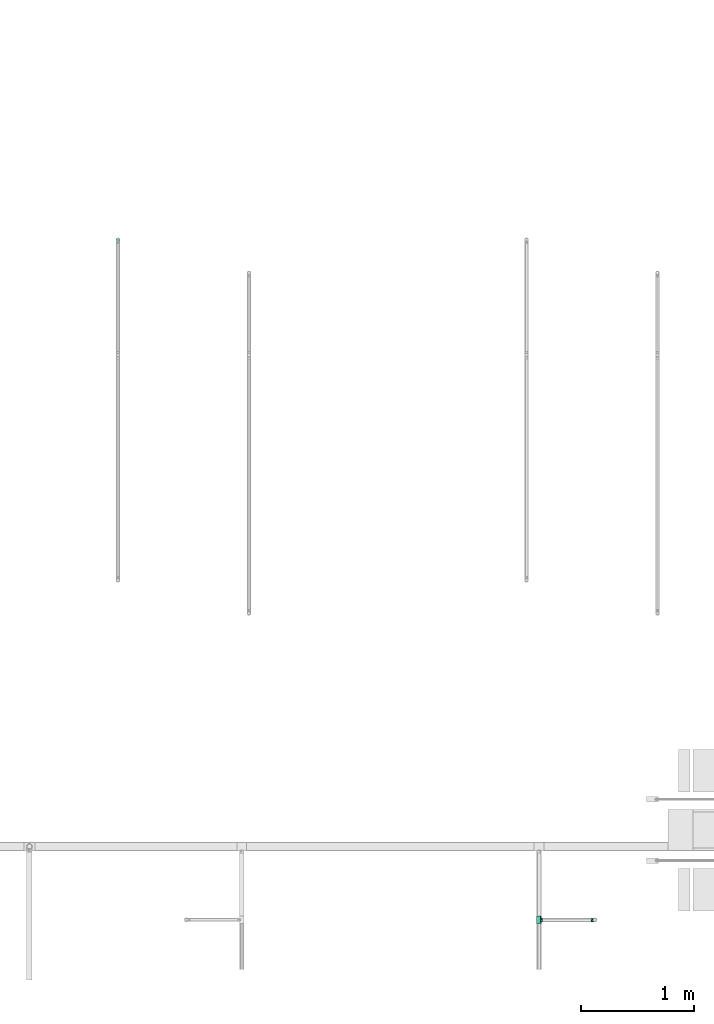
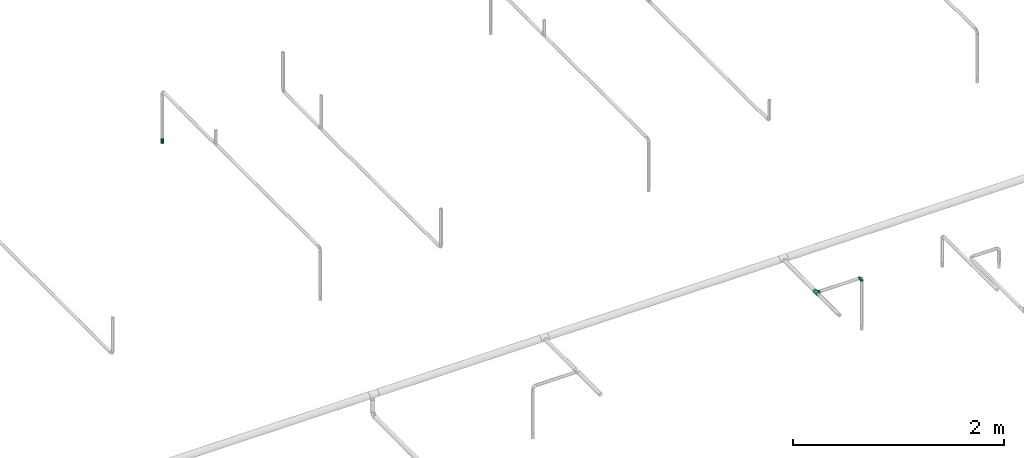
# One storey, part 45 of 95: 2 flow fittings, 1 flow terminal.
"""IFC2X3 building model written with IfcOpenShell, lengths in millimetres."""

from ifc_helpers import new_model, entity, si_unit, converted_unit, derived_unit, direction, frame, origin_with_axes, place, context, subcontext, project, spatial, open_shell, surface_model, source, transform, mapped, type_object, element, save


model = new_model("IFC2X3")

# Units and contexts
model_context = context("Model", 3, precision=0.01, world=frame((0.0, 4.29681676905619e-09, 0.0)), true_north=direction((4.01073788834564e-13, 1.0)))
plan_context = context("Plan", 3, precision=0.01, world=frame((0.0, 4.29681676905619e-09, 0.0)), true_north=direction((4.01073788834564e-13, 1.0)))
body_context = subcontext(model_context, "Body", "Model", "MODEL_VIEW")
ifc_project = project(units=[converted_unit("PLANEANGLEUNIT", "DEGREE", entity("IfcPositiveLengthMeasure", 0.0174532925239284), si_unit("PLANEANGLEUNIT", "RADIAN"), dimensions=[0, 0, 0, 0, 0, 0, 0]), si_unit("AREAUNIT", "SQUARE_METRE"), si_unit("LENGTHUNIT", "METRE", prefix="MILLI"), si_unit("MASSUNIT", "GRAM", prefix="KILO"), si_unit("POWERUNIT", "WATT"), si_unit("PRESSUREUNIT", "PASCAL"), si_unit("FORCEUNIT", "NEWTON", prefix="KILO"), si_unit("ELECTRICVOLTAGEUNIT", "VOLT"), si_unit("ELECTRICCURRENTUNIT", "AMPERE"), si_unit("THERMODYNAMICTEMPERATUREUNIT", "DEGREE_CELSIUS"), si_unit("TIMEUNIT", "SECOND"), si_unit("VOLUMEUNIT", "CUBIC_METRE"), derived_unit("LINEARVELOCITYUNIT", [(si_unit("LENGTHUNIT", "METRE"), 1), (si_unit("TIMEUNIT", "SECOND"), -1)]), derived_unit("VOLUMETRICFLOWRATEUNIT", [(si_unit("VOLUMEUNIT", "CUBIC_METRE"), 1), (si_unit("TIMEUNIT", "SECOND"), -1)]), derived_unit("THERMALTRANSMITTANCEUNIT", [(si_unit("POWERUNIT", "WATT"), 1), (si_unit("THERMODYNAMICTEMPERATUREUNIT", "KELVIN"), -1), (si_unit("AREAUNIT", "SQUARE_METRE"), -1)]), derived_unit("SOUNDPRESSUREUNIT", [(si_unit("PRESSUREUNIT", "PASCAL"), 1)])], contexts=[model_context, plan_context])

# Site, building, storey
site_placement = place(None, frame((0.0, -4.29681676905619e-09, 0.0), z_axis=(0.0, 0.0, 1.0), x_axis=(1.0, 0.0, 0.0)))
site = spatial("IfcSite", under=ifc_project, at=site_placement, CompositionType="ELEMENT")
building_placement = place(site_placement, frame((0.0, 4.29681676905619e-09, 0.0), z_axis=(0.0, 0.0, 1.0), x_axis=(1.0, 0.0, 0.0)))
building = spatial("IfcBuilding", under=site, at=building_placement, Name="mc-building", CompositionType="ELEMENT")
storey_placement = place(building_placement, frame((0.0, 0.0, 210900.0), z_axis=(0.0, 0.0, 1.0), x_axis=(1.0, 0.0, 0.0)))
storey = spatial("IfcBuildingStorey", under=building, at=storey_placement, Name="Nivå F", CompositionType="ELEMENT", Elevation=210900.0)

# Flow fittings
pipe_fitting_type_1 = type_object("IfcPipeFittingType", Name="magi_pipe_fe_tee_centric_90_NOR", PredefinedType="JUNCTION")
shared_shape_1 = source(origin_with_axes(), body_context, "Body", "SurfaceModel", [
    surface_model("IfcShellBasedSurfaceModel", [(-33.8, 0.0, -21.2), (-33.8, -5.48696, -20.47763), (-33.8, 5.48696, -20.47763), (-33.8, 10.6, -18.35974), (-33.8, 14.99066, -14.99066), (-33.8, -20.47763, 5.48696), (-33.8, 18.35974, -10.6), (-33.8, 10.6, 18.35974), (-33.8, -14.99066, -14.99066), (-33.8, -18.35974, -10.6), (-33.8, -10.6, -18.35974), (-33.8, -20.47763, -5.48696), (-33.8, -21.2, 0.0), (-33.8, 18.35974, 10.6), (-33.8, 20.47763, -5.48696), (-33.8, 20.47763, 5.48696), (-33.8, 21.2, 0.0), (-33.8, 14.99066, 14.99066), (-33.8, 5.48696, 20.47763), (-33.8, 0.0, 21.2), (-33.8, -18.35974, 10.6), (-33.8, -14.99066, 14.99066), (-33.8, -10.6, 18.35974), (-33.8, -5.48696, 20.47763), (33.8, 5.48696, -20.47763), (33.8, -5.48696, -20.47763), (33.8, 0.0, -21.2), (33.8, 14.99066, -14.99066), (33.8, 10.6, -18.35974), (33.8, 18.35974, -10.6), (33.8, 20.47763, -5.48696), (33.8, -21.2, 0.0), (33.8, -10.6, -18.35974), (33.8, -18.35974, -10.6), (33.8, -14.99066, -14.99066), (33.8, -20.47763, -5.48696), (33.8, -20.47763, 5.48696), (33.8, 21.2, 0.0), (33.8, 20.47763, 5.48696), (33.8, 18.35974, 10.6), (33.8, 10.6, 18.35974), (33.8, 14.99066, 14.99066), (33.8, 0.0, 21.2), (33.8, 5.48696, 20.47763), (33.8, -14.99066, 14.99066), (33.8, -18.35974, 10.6), (33.8, -10.6, 18.35974), (33.8, -5.48696, 20.47763), (16.9, -21.2, 0.0), (15.78624, -20.32327, 6.03364), (12.81343, -18.11115, 11.01935), (8.52479, -15.37862, 14.59239), (3.07939, -13.16482, 16.61708), (-16.9, -21.2, 0.0), (-15.78686, -20.32375, 6.032), (-8.52604, -15.37932, 14.59166), (-3.0848, -13.16609, 16.61608), (-12.81602, -18.11299, 11.01634), (3.07939, -13.16482, -16.61708), (12.81343, -18.11115, -11.01935), (8.52479, -15.37862, -14.59239), (15.78624, -20.32327, -6.03364), (-3.0848, -13.16609, -16.61608), (-8.52604, -15.37932, -14.59166), (-12.81602, -18.11299, -11.01634), (-15.78686, -20.32375, -6.032), (4.37404, -31.8, -16.32415), (-16.9, -31.8, 0.0), (0.0, -31.8, -16.9), (14.63583, -31.8, -8.45), (8.45, -31.8, -14.63583), (16.32415, -31.8, -4.37404), (11.9501, -31.8, -11.9501), (-11.9501, -31.8, -11.9501), (-8.45, -31.8, -14.63583), (-4.37404, -31.8, -16.32415), (-14.63583, -31.8, -8.45), (-16.32415, -31.8, -4.37404), (16.9, -31.8, 0.0), (8.45, -31.8, 14.63583), (16.32415, -31.8, 4.37404), (14.63583, -31.8, 8.45), (-8.45, -31.8, 14.63583), (11.9501, -31.8, 11.9501), (4.37404, -31.8, 16.32415), (-16.32415, -31.8, 4.37404), (-11.9501, -31.8, 11.9501), (-14.63583, -31.8, 8.45), (0.0, -31.8, 16.9), (-4.37404, -31.8, 16.32415), (-16.34343, -20.76188, 3.016), (16.34312, -20.76163, 3.01682), (-0.00271, -13.16546, 16.61658), (16.34312, -20.76163, -3.01682), (-0.00271, -13.16546, -16.61658), (-16.34343, -20.76188, -3.016)], [open_shell([[[0, 1, 2]], [[3, 2, 4]], [[5, 2, 1]], [[4, 2, 6]], [[6, 2, 7]], [[8, 9, 10]], [[1, 10, 9]], [[9, 11, 1]], [[12, 1, 11]], [[5, 1, 12]], [[13, 14, 6]], [[13, 15, 16]], [[6, 7, 13]], [[5, 7, 2]], [[17, 13, 7]], [[18, 7, 19]], [[20, 21, 5]], [[22, 5, 21]], [[23, 19, 22]], [[7, 5, 22]], [[22, 19, 7]], [[16, 14, 13]], [[24, 25, 26]], [[27, 24, 28]], [[29, 30, 24]], [[29, 24, 27]], [[31, 24, 30]], [[32, 33, 34]], [[33, 32, 25]], [[33, 31, 35]], [[31, 33, 25]], [[25, 24, 31]], [[30, 36, 31]], [[37, 38, 39]], [[37, 39, 40]], [[37, 40, 36]], [[40, 39, 41]], [[42, 40, 43]], [[36, 44, 45]], [[44, 36, 46]], [[46, 42, 47]], [[46, 36, 40]], [[40, 42, 46]], [[37, 36, 30]], [[31, 36, 48]], [[49, 48, 36]], [[36, 45, 49]], [[45, 44, 50]], [[51, 50, 44]], [[52, 51, 44]], [[44, 46, 52]], [[45, 50, 49]], [[53, 54, 5]], [[5, 12, 53]], [[54, 20, 5]], [[55, 56, 21]], [[20, 57, 21]], [[57, 20, 54]], [[21, 57, 55]], [[56, 22, 21]], [[52, 22, 56]], [[19, 47, 42]], [[23, 46, 47]], [[18, 42, 43]], [[39, 38, 15]], [[17, 40, 41]], [[13, 41, 39]], [[43, 40, 7]], [[16, 38, 37]], [[22, 46, 23]], [[23, 47, 19]], [[18, 19, 42]], [[43, 7, 18]], [[7, 40, 17]], [[13, 17, 41]], [[15, 13, 39]], [[38, 16, 15]], [[46, 22, 52]], [[6, 30, 29]], [[14, 37, 30]], [[4, 29, 27]], [[26, 25, 1]], [[2, 28, 24]], [[0, 24, 26]], [[27, 28, 3]], [[10, 25, 32]], [[16, 37, 14]], [[14, 30, 6]], [[4, 6, 29]], [[27, 3, 4]], [[3, 28, 2]], [[0, 2, 24]], [[1, 0, 26]], [[25, 10, 1]], [[32, 58, 10]], [[34, 59, 60]], [[59, 34, 33]], [[60, 58, 34]], [[34, 58, 32]], [[35, 31, 48]], [[35, 61, 33]], [[61, 35, 48]], [[33, 61, 59]], [[62, 63, 8]], [[8, 64, 9]], [[64, 8, 63]], [[62, 8, 10]], [[65, 53, 11]], [[65, 11, 9]], [[11, 53, 12]], [[65, 9, 64]], [[58, 62, 10]], [[66, 67, 68]], [[69, 66, 70]], [[69, 71, 66]], [[69, 70, 72]], [[67, 66, 71]], [[68, 73, 74]], [[74, 75, 68]], [[76, 67, 77]], [[73, 68, 76]], [[67, 76, 68]], [[71, 78, 67]], [[79, 78, 80]], [[79, 80, 81]], [[82, 67, 79]], [[79, 81, 83]], [[82, 79, 84]], [[85, 86, 87]], [[86, 85, 82]], [[82, 88, 89]], [[85, 67, 82]], [[84, 88, 82]], [[79, 67, 78]], [[85, 90, 67]], [[57, 87, 86]], [[85, 87, 54]], [[86, 82, 55]], [[85, 54, 90]], [[90, 53, 67]], [[54, 87, 57]], [[91, 49, 80]], [[55, 89, 56]], [[55, 57, 86]], [[88, 52, 92]], [[55, 82, 89]], [[52, 88, 84]], [[79, 51, 84]], [[50, 83, 81]], [[83, 51, 79]], [[81, 80, 49]], [[83, 50, 51]], [[51, 52, 84]], [[78, 91, 80]], [[49, 50, 81]], [[91, 78, 48]], [[88, 56, 89]], [[92, 56, 88]], [[71, 93, 78]], [[59, 69, 72]], [[71, 69, 61]], [[72, 70, 60]], [[93, 48, 78]], [[61, 69, 59]], [[60, 66, 58]], [[60, 59, 72]], [[68, 62, 94]], [[60, 70, 66]], [[95, 67, 53]], [[95, 65, 77]], [[71, 61, 93]], [[75, 62, 68]], [[65, 76, 77]], [[73, 76, 64]], [[68, 58, 66]], [[75, 63, 62]], [[63, 75, 74]], [[74, 73, 63]], [[63, 73, 64]], [[64, 76, 65]], [[67, 95, 77]], [[94, 58, 68]]])]),
])
flow_fitting_1_placement = place(storey_placement, frame((530010.01659, 441213.77142, 4310.0), z_axis=(0.0, 0.0, 1.0), x_axis=(0.0, 1.0, 0.0)))
element("IfcFlowFitting", 1, at=flow_fitting_1_placement, inside=storey, type_object=pipe_fitting_type_1, Name="magi_pipe_fe_tee_centric_90_NOR", context=body_context, shape_type="MappedRepresentation", body=[
    mapped(shared_shape_1, transform((0.0, 0.0, 0.0), scale=1.0)),
])
pipe_fitting_type_2 = type_object("IfcPipeFittingType", Name="magi_pipe_fe_elbow_short_001", PredefinedType="BEND")
shared_shape_2 = source(origin_with_axes(), body_context, "Body", "SurfaceModel", [
    surface_model("IfcShellBasedSurfaceModel", [(-33.8, 8.45, -14.63583), (-33.8, 4.37404, -16.32415), (-33.8, 11.9501, -11.9501), (-33.8, -11.9501, -11.9501), (-33.8, -14.63583, -8.45), (-33.8, -8.45, -14.63583), (-33.8, 0.0, -16.9), (-33.8, -4.37404, -16.32415), (-33.8, -4.37404, 16.32415), (-33.8, 0.0, 16.9), (-33.8, -8.45, 14.63583), (-33.8, 16.32415, -4.37404), (-33.8, 14.63583, -8.45), (-33.8, -16.32415, -4.37404), (-33.8, -16.9, 0.0), (-33.8, -16.32415, 4.37404), (-33.8, 11.9501, 11.9501), (-33.8, 14.63583, 8.45), (-33.8, 16.32415, 4.37404), (-33.8, 4.37404, 16.32415), (-33.8, 8.45, 14.63583), (-33.8, -14.63583, 8.45), (-33.8, -11.9501, 11.9501), (-33.8, 16.9, 0.0), (-11.9501, 33.8, -11.9501), (0.0, 33.8, -16.9), (-4.37404, 33.8, -16.32415), (-8.45, 33.8, -14.63583), (-14.63583, 33.8, -8.45), (-16.32415, 33.8, -4.37404), (14.63583, 33.8, -8.45), (8.45, 33.8, 14.63583), (16.32415, 33.8, -4.37404), (8.45, 33.8, -14.63583), (11.9501, 33.8, -11.9501), (4.37404, 33.8, -16.32415), (16.32415, 33.8, 4.37404), (16.9, 33.8, 0.0), (-11.9501, 33.8, 11.9501), (-16.32415, 33.8, 4.37404), (-14.63583, 33.8, 8.45), (-8.45, 33.8, 14.63583), (-4.37404, 33.8, 16.32415), (11.9501, 33.8, 11.9501), (14.63583, 33.8, 8.45), (0.0, 33.8, 16.9), (4.37404, 33.8, 16.32415), (-16.9, 33.8, 0.0), (-24.79389, -13.12945, 9.48721), (-22.19287, -9.75018, 12.59315), (-24.09897, -14.97035, 0.0), (-14.93934, -10.76256, 8.5297), (-22.46095, -14.75051, 5.27077), (14.75051, 22.46094, 5.27077), (11.9251, 13.23888, 4.33236), (13.04069, 14.39795, 0.0), (7.71387, 13.68847, 11.55891), (9.75018, 22.19287, 12.59315), (4.10169, 13.0571, 14.04018), (-24.84007, -6.39063, 15.2048), (-25.81779, -2.23879, 16.61097), (-23.66549, 2.59054, 16.87119), (-26.50418, 14.06512, 11.08152), (-24.21253, 17.66365, 7.72657), (-29.58514, 15.86957, 7.00283), (-6.17382, -7.5455, 0.0), (-13.23888, -11.9251, 4.33236), (-14.39795, -13.04069, 0.0), (-17.81434, 18.87373, 11.97104), (-6.30846, 29.15138, 15.82987), (-2.31622, 25.28002, 16.85849), (-29.23923, 10.23435, 13.77053), (-1.45439, -2.85688, 7.61475), (-0.28326, 0.34872, 10.09509), (-5.74484, -4.04709, 10.4122), (-4.41137, 11.31918, 16.59407), (-8.39727, 3.10034, 15.7812), (-1.72649, 9.1306, 15.53089), (-17.39909, 24.75344, 7.64977), (-26.19233, 20.0512, 0.0), (-28.14518, 17.29657, 4.25857), (-26.05147, 6.6281, 15.96447), (-5.87354, 16.61944, 16.86968), (-12.51807, 12.51807, 16.48937), (-10.06312, 7.38516, 16.81295), (-3.01882, 3.01882, 13.81718), (-13.0571, -4.10169, 14.04018), (-16.82553, -0.15166, 16.38038), (10.76256, 14.93934, 8.5297), (13.12945, 24.79389, 9.48721), (6.39063, 24.84007, 15.2048), (2.23879, 25.81779, 16.61097), (-13.68847, -7.71387, 11.55891), (14.97035, 24.09897, 0.0), (-7.30894, 22.89991, 16.09489), (-10.67958, 26.17414, 14.008), (-12.78295, 18.26924, 15.06066), (-13.88562, 22.45231, 12.93244), (-18.04944, 15.16501, 14.04434), (-23.11658, 20.08178, 4.02986), (-21.84989, 21.84989, 0.0), (-18.55817, 25.48277, 3.93065), (-13.95142, 26.94732, 11.03289), (-18.57098, 7.23906, 16.59756), (-16.58335, 4.14122, 16.89279), (-17.96666, 11.46709, 15.63151), (-9.84453, 17.54304, 16.18938), (0.15166, 16.82553, 16.38038), (-23.27207, 11.47201, 14.23154), (3.84842, 5.86994, 10.70473), (-8.0212, -7.54413, 7.93275), (1.00345, -2.19508, 4.57414), (5.13203, 3.01004, 5.90201), (5.24161, 1.7543, 2.53265), (8.70457, 7.04947, 3.99182), (-20.0512, 26.19233, 0.0), (8.4852, 8.76699, 7.09296), (-4.55488, -6.72064, 4.90681), (2.05031, -2.05031, 0.0), (7.5455, 6.17382, 0.0), (-26.75399, 2.1369, -16.845), (-14.61995, 24.73803, -11.27736), (-28.45274, -13.45335, -9.81895), (-26.00469, 6.63555, -15.96645), (-23.06726, 20.04573, -4.26202), (-13.80647, -4.26506, -14.17873), (-14.67501, -0.21081, -16.07388), (-6.7902, -0.2828, -13.8478), (-24.53586, 11.08096, -14.13417), (-26.72048, 14.00837, -11.05776), (10.0967, 24.44989, -12.75976), (5.83237, 21.40218, -15.03047), (6.66249, 28.54238, -15.38093), (-20.38182, 15.48705, -12.74596), (12.53268, 21.23441, -9.15363), (12.54494, 15.67504, -5.54878), (9.7522, 12.89279, -8.66343), (-15.65186, 19.64213, -13.01327), (-12.03528, 20.66498, -14.67665), (-15.61907, 15.61906, -14.83879), (-25.56551, -15.26206, 0.0), (-24.65452, -15.12934, -5.50955), (13.45335, 28.45274, -9.81895), (15.12934, 24.65452, -5.50955), (-7.35442, -8.31014, -5.65563), (-15.67504, -12.54494, -5.54878), (-24.44989, -10.0967, -12.75976), (0.16522, 0.41303, -9.71728), (-5.70658, -5.33066, -8.89288), (-5.13869, -2.37198, -11.53565), (-21.23441, -12.53268, -9.15363), (0.71146, 7.93863, -14.09382), (0.21081, 14.67501, -16.07388), (3.49291, 14.42772, -14.76381), (-24.89911, -2.13088, -16.591), (-28.54238, -6.66249, -15.38093), (-18.44386, -7.71663, -13.26957), (2.13088, 24.89911, -16.591), (-28.64342, 17.44413, -2.89318), (1.70017, -1.28722, -5.09504), (-16.57067, 26.81947, -7.36596), (-17.69055, 27.4263, -3.76405), (-12.89279, -9.7522, -8.66343), (-5.96611, 5.96611, -15.95814), (-20.53709, 20.09345, -8.28985), (-2.1369, 26.75399, -16.845), (-6.89872, 24.58781, -16.02578), (-10.60739, 26.53157, -13.98044), (-21.40218, -5.83237, -15.03047), (2.93192, 5.89627, -11.55917), (6.89393, 12.61842, -11.82233), (5.58056, 5.95325, -8.79455), (-3.99512, 18.61798, -16.89635), (8.31014, 7.35442, -5.65563), (-9.1383, 9.86148, -16.89041), (-9.99983, 16.02119, -16.39699), (-16.68576, 9.78031, -16.34199), (-27.01915, 16.61158, -7.12979), (15.26206, 25.56551, 0.0), (-18.61798, 3.99512, -16.89635), (-19.37495, 27.82495, 0.0), (-12.61842, -6.89393, -11.82233), (-18.84705, 19.14018, -10.96545)], [open_shell([[[0, 1, 2]], [[3, 4, 5]], [[6, 7, 5]], [[8, 9, 10]], [[1, 6, 2]], [[11, 12, 2]], [[4, 2, 6]], [[2, 13, 10]], [[5, 4, 6]], [[2, 4, 13]], [[14, 15, 13]], [[11, 2, 16]], [[11, 17, 18]], [[11, 16, 17]], [[19, 20, 16]], [[16, 2, 10]], [[19, 16, 10]], [[21, 22, 15]], [[22, 13, 15]], [[22, 10, 13]], [[10, 9, 19]], [[11, 18, 23]], [[24, 25, 26]], [[24, 26, 27]], [[24, 28, 29]], [[25, 24, 30]], [[31, 32, 24]], [[33, 30, 34]], [[33, 35, 25]], [[25, 30, 33]], [[32, 30, 24]], [[32, 36, 37]], [[38, 24, 29]], [[39, 40, 29]], [[40, 38, 29]], [[38, 41, 42]], [[38, 31, 24]], [[31, 38, 42]], [[36, 43, 44]], [[36, 32, 43]], [[31, 45, 46]], [[32, 31, 43]], [[42, 45, 31]], [[39, 29, 47]], [[22, 48, 49]], [[15, 14, 50]], [[51, 48, 52]], [[53, 54, 55]], [[48, 22, 21]], [[15, 52, 21]], [[56, 57, 58]], [[49, 10, 22]], [[49, 59, 10]], [[9, 60, 61]], [[62, 63, 64]], [[65, 66, 67]], [[57, 43, 31]], [[62, 68, 63]], [[42, 69, 70]], [[20, 71, 16]], [[8, 60, 9]], [[72, 73, 74]], [[75, 76, 77]], [[16, 62, 17]], [[40, 39, 78]], [[79, 23, 80]], [[64, 18, 17]], [[9, 61, 19]], [[19, 81, 20]], [[82, 83, 84]], [[74, 85, 86]], [[59, 86, 87]], [[88, 89, 57]], [[90, 31, 46]], [[44, 53, 36]], [[46, 45, 91]], [[54, 53, 88]], [[44, 89, 53]], [[92, 86, 49]], [[89, 44, 43]], [[10, 59, 8]], [[53, 55, 93]], [[93, 36, 53]], [[66, 52, 67]], [[94, 82, 70]], [[95, 96, 94]], [[97, 98, 96]], [[79, 99, 100]], [[41, 38, 95]], [[101, 100, 99]], [[68, 78, 63]], [[42, 41, 69]], [[23, 18, 80]], [[95, 94, 69]], [[78, 101, 99]], [[38, 102, 95]], [[70, 45, 42]], [[97, 95, 102]], [[15, 50, 52]], [[90, 57, 31]], [[57, 90, 58]], [[81, 19, 61]], [[103, 104, 84]], [[105, 81, 103]], [[38, 40, 102]], [[106, 96, 83]], [[94, 106, 82]], [[91, 70, 107]], [[71, 62, 16]], [[62, 108, 98]], [[86, 59, 49]], [[67, 52, 50]], [[60, 59, 87]], [[92, 49, 51]], [[86, 85, 76]], [[91, 90, 46]], [[37, 36, 93]], [[107, 77, 58]], [[107, 58, 90]], [[58, 85, 109]], [[110, 74, 92]], [[72, 74, 110]], [[66, 51, 52]], [[72, 111, 112]], [[113, 114, 112]], [[56, 88, 57]], [[52, 48, 21]], [[49, 48, 51]], [[57, 89, 43]], [[53, 89, 88]], [[103, 81, 61]], [[71, 81, 108]], [[18, 64, 80]], [[63, 78, 99]], [[47, 115, 101]], [[101, 115, 100]], [[40, 78, 102]], [[68, 102, 78]], [[97, 96, 95]], [[105, 98, 108]], [[103, 84, 83]], [[107, 70, 82]], [[76, 84, 87]], [[82, 84, 75]], [[70, 91, 45]], [[90, 91, 107]], [[59, 60, 8]], [[61, 60, 87]], [[73, 85, 74]], [[109, 112, 116]], [[103, 61, 104]], [[105, 103, 83]], [[96, 105, 83]], [[81, 105, 108]], [[96, 98, 105]], [[62, 98, 68]], [[61, 87, 104]], [[87, 84, 104]], [[86, 76, 87]], [[77, 76, 85]], [[58, 77, 85]], [[75, 77, 107]], [[82, 75, 107]], [[76, 75, 84]], [[81, 71, 20]], [[62, 71, 108]], [[95, 69, 41]], [[70, 69, 94]], [[62, 64, 17]], [[80, 63, 99]], [[63, 80, 64]], [[80, 99, 79]], [[66, 65, 117]], [[110, 66, 117]], [[112, 114, 116]], [[118, 117, 65]], [[110, 92, 51]], [[112, 111, 113]], [[119, 55, 54]], [[74, 86, 92]], [[58, 109, 56]], [[116, 56, 109]], [[66, 110, 51]], [[72, 110, 117]], [[111, 72, 117]], [[73, 112, 109]], [[117, 118, 111]], [[113, 111, 118]], [[118, 119, 113]], [[114, 119, 54]], [[119, 114, 113]], [[116, 54, 88]], [[54, 116, 114]], [[116, 88, 56]], [[112, 73, 72]], [[85, 73, 109]], [[78, 39, 101]], [[47, 101, 39]], [[102, 68, 97]], [[97, 68, 98]], [[82, 106, 83]], [[94, 96, 106]], [[1, 120, 6]], [[28, 24, 121]], [[3, 122, 4]], [[0, 123, 1]], [[100, 124, 79]], [[125, 126, 127]], [[128, 2, 129]], [[130, 131, 132]], [[128, 129, 133]], [[134, 135, 136]], [[137, 138, 139]], [[128, 0, 2]], [[67, 140, 141]], [[134, 142, 143]], [[141, 13, 4]], [[144, 65, 145]], [[146, 3, 5]], [[147, 148, 149]], [[145, 141, 150]], [[151, 152, 153]], [[154, 7, 6]], [[5, 155, 146]], [[150, 146, 156]], [[155, 5, 7]], [[143, 135, 134]], [[35, 157, 25]], [[23, 79, 158]], [[148, 159, 144]], [[160, 161, 29]], [[145, 162, 144]], [[163, 152, 151]], [[29, 28, 160]], [[121, 164, 160]], [[33, 34, 130]], [[25, 165, 26]], [[26, 165, 166]], [[142, 34, 30]], [[24, 27, 167]], [[124, 161, 164]], [[157, 35, 132]], [[155, 154, 168]], [[123, 0, 128]], [[169, 170, 171]], [[172, 157, 152]], [[26, 166, 27]], [[132, 35, 33]], [[142, 130, 34]], [[168, 154, 126]], [[136, 135, 173]], [[133, 137, 139]], [[2, 12, 129]], [[170, 131, 130]], [[30, 32, 143]], [[172, 174, 175]], [[176, 123, 128]], [[158, 177, 11]], [[135, 55, 119]], [[167, 27, 166]], [[175, 166, 172]], [[137, 167, 138]], [[122, 141, 4]], [[140, 14, 13]], [[32, 37, 178]], [[170, 130, 134]], [[152, 157, 131]], [[165, 157, 172]], [[153, 170, 151]], [[152, 163, 174]], [[168, 125, 156]], [[122, 146, 150]], [[120, 154, 6]], [[179, 174, 126]], [[179, 126, 154]], [[126, 163, 127]], [[162, 145, 150]], [[140, 13, 141]], [[32, 178, 143]], [[55, 143, 178]], [[177, 129, 12]], [[128, 133, 139]], [[176, 128, 139]], [[120, 123, 179]], [[121, 160, 28]], [[161, 100, 180]], [[166, 175, 138]], [[121, 24, 167]], [[161, 47, 29]], [[79, 124, 158]], [[124, 164, 177]], [[161, 124, 100]], [[136, 171, 170]], [[127, 163, 151]], [[147, 171, 159]], [[148, 144, 162]], [[127, 151, 169]], [[127, 181, 125]], [[129, 177, 164]], [[12, 11, 177]], [[159, 65, 144]], [[67, 141, 145]], [[143, 55, 135]], [[135, 119, 173]], [[123, 120, 1]], [[154, 120, 179]], [[157, 165, 25]], [[166, 165, 172]], [[172, 152, 174]], [[176, 139, 175]], [[126, 174, 163]], [[176, 174, 179]], [[174, 176, 175]], [[123, 176, 179]], [[150, 181, 162]], [[127, 149, 181]], [[181, 148, 162]], [[159, 148, 147]], [[171, 136, 173]], [[170, 134, 136]], [[159, 171, 173]], [[171, 147, 169]], [[169, 147, 149]], [[151, 170, 169]], [[164, 182, 129]], [[182, 121, 137]], [[181, 149, 148]], [[169, 149, 127]], [[182, 137, 133]], [[167, 137, 121]], [[166, 138, 167]], [[175, 139, 138]], [[129, 182, 133]], [[121, 182, 164]], [[161, 160, 164]], [[47, 161, 180]], [[177, 158, 124]], [[23, 158, 11]], [[130, 132, 33]], [[157, 132, 131]], [[143, 142, 30]], [[130, 142, 134]], [[154, 155, 7]], [[146, 155, 168]], [[146, 122, 3]], [[141, 122, 150]], [[152, 131, 153]], [[159, 119, 118]], [[67, 145, 65]], [[170, 153, 131]], [[119, 159, 173]], [[159, 118, 65]], [[156, 125, 181]], [[126, 125, 168]], [[150, 156, 181]], [[168, 156, 146]]])]),
])
flow_fitting_2_placement = place(storey_placement, frame((530503.84755, 441213.77142, 4310.0), z_axis=(0.0, 1.0, 0.0), x_axis=(1.0, 0.0, 0.0)))
element("IfcFlowFitting", 2, at=flow_fitting_2_placement, inside=storey, type_object=pipe_fitting_type_2, Name="magi_pipe_fe_elbow_short_001", context=body_context, shape_type="MappedRepresentation", body=[
    mapped(shared_shape_2, transform((0.0, 0.0, 0.0), scale=1.0)),
])

# Flow terminal
fire_suppression_terminal_type = type_object("IfcFireSuppressionTerminalType", Name="SP-15-K80-68DGR-STD", PredefinedType="NOTDEFINED")
shared_shape_3 = source(origin_with_axes(), body_context, "Body", "SurfaceModel", [
    surface_model("IfcShellBasedSurfaceModel", [(15.45481, -4.1411, 53.0), (13.85641, -8.0, 53.0), (15.45481, -4.1411, 0.0), (16.0, 0.0, 0.0), (16.0, 0.0, 53.0), (15.45481, 4.1411, 0.0), (13.85641, 8.0, 53.0), (15.45481, 4.1411, 53.0), (11.31371, 11.31371, 53.0), (8.0, 13.85641, 53.0), (4.1411, 15.45481, 53.0), (-8.0, 13.85641, 53.0), (-4.1411, 15.45481, 53.0), (0.0, 16.0, 53.0), (-11.31371, 11.31371, 53.0), (-13.85641, 8.0, 53.0), (-15.45481, 4.1411, 53.0), (11.31371, -11.31371, 53.0), (-16.0, 0.0, 53.0), (0.0, -16.0, 53.0), (4.1411, -15.45481, 53.0), (8.0, -13.85641, 53.0), (-13.85641, -8.0, 53.0), (-11.31371, -11.31371, 53.0), (-15.45481, -4.1411, 53.0), (-8.0, -13.85641, 53.0), (-4.1411, -15.45481, 53.0), (8.0, -13.85641, 0.0), (4.1411, -15.45481, 0.0), (0.0, -16.0, 0.0), (-4.1411, -15.45481, 0.0), (13.85641, -8.0, 0.0), (11.31371, -11.31371, 0.0), (-16.0, 0.0, 0.0), (-8.0, -13.85641, 0.0), (-11.31371, -11.31371, 0.0), (-13.85641, -8.0, 0.0), (-15.45481, -4.1411, 0.0), (4.1411, 15.45481, 0.0), (13.85641, 8.0, 0.0), (8.0, 13.85641, 0.0), (11.31371, 11.31371, 0.0), (-15.45481, 4.1411, 0.0), (-11.31371, 11.31371, 0.0), (-8.0, 13.85641, 0.0), (-13.85641, 8.0, 0.0), (-4.1411, 15.45481, 0.0), (0.0, 16.0, 0.0)], [open_shell([[[0, 1, 2]], [[3, 4, 0]], [[5, 6, 7]], [[7, 4, 3]], [[8, 9, 10]], [[8, 10, 11]], [[8, 4, 7]], [[6, 8, 7]], [[4, 8, 11]], [[12, 11, 13]], [[11, 10, 13]], [[14, 15, 11]], [[16, 11, 15]], [[11, 16, 4]], [[16, 0, 4]], [[17, 1, 0]], [[18, 17, 16]], [[19, 20, 21]], [[18, 21, 17]], [[21, 18, 19]], [[22, 23, 24]], [[18, 24, 23]], [[25, 26, 23]], [[18, 23, 26]], [[26, 19, 18]], [[0, 16, 17]], [[27, 28, 29]], [[27, 29, 30]], [[2, 31, 32]], [[32, 27, 33]], [[2, 32, 33]], [[34, 35, 30]], [[36, 30, 35]], [[36, 37, 30]], [[37, 27, 30]], [[37, 33, 27]], [[33, 5, 2]], [[38, 5, 33]], [[39, 5, 38]], [[38, 40, 41]], [[39, 38, 41]], [[33, 42, 38]], [[43, 44, 45]], [[42, 45, 44]], [[46, 47, 44]], [[38, 42, 44]], [[44, 47, 38]], [[5, 3, 2]], [[45, 42, 16]], [[45, 15, 43]], [[46, 44, 11]], [[14, 44, 43]], [[47, 46, 12]], [[33, 18, 42]], [[18, 16, 42]], [[16, 15, 45]], [[15, 14, 43]], [[44, 14, 11]], [[11, 12, 46]], [[12, 13, 47]], [[40, 38, 10]], [[40, 9, 41]], [[5, 39, 6]], [[8, 39, 41]], [[3, 5, 7]], [[13, 10, 38]], [[10, 9, 40]], [[9, 8, 41]], [[8, 6, 39]], [[47, 13, 38]], [[2, 3, 0]], [[31, 2, 1]], [[28, 27, 21]], [[29, 28, 20]], [[1, 17, 32]], [[17, 27, 32]], [[21, 27, 17]], [[21, 20, 28]], [[31, 1, 32]], [[20, 19, 29]], [[34, 30, 26]], [[34, 25, 35]], [[37, 36, 22]], [[23, 36, 35]], [[33, 37, 24]], [[19, 26, 30]], [[26, 25, 34]], [[25, 23, 35]], [[23, 22, 36]], [[37, 22, 24]], [[24, 18, 33]], [[29, 19, 30]]])]),
])
flow_terminal_placement = place(storey_placement, frame((526298.68266, 447207.85, 3759.89999999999), z_axis=(0.0, 0.0, -1.0), x_axis=(1.0, 0.0, 0.0)))
element("IfcFlowTerminal", 3, at=flow_terminal_placement, inside=storey, type_object=fire_suppression_terminal_type, Name="SP-15-K80-68DGR-STD", context=body_context, shape_type="MappedRepresentation", body=[
    mapped(shared_shape_3, transform((0.0, 0.0, 0.0), scale=1.0)),
])

save(model, "model.ifc")
